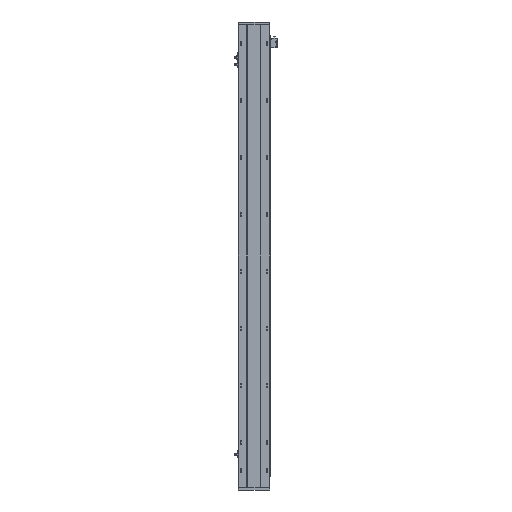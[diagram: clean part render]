
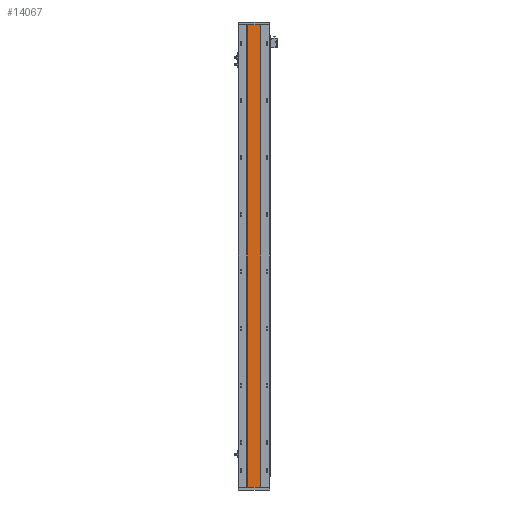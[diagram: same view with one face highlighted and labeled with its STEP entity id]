
A CAD part, front view. The second image highlights one B-rep face of the part: STEP entity #14067.
In plain terms, the highlighted planar face has unit normal (0, -1, 0).
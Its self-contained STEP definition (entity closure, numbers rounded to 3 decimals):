
#60 = VECTOR ( 'NONE', #23445, 1000. ) ;
#534 = DIRECTION ( 'NONE',  ( 0., 0., -1. ) ) ;
#878 = EDGE_CURVE ( 'NONE', #17143, #25121, #7319, .T. ) ;
#1242 = ORIENTED_EDGE ( 'NONE', *, *, #2972, .F. ) ;
#1353 = VERTEX_POINT ( 'NONE', #18440 ) ;
#1742 = CARTESIAN_POINT ( 'NONE',  ( 0., 115.96, 1756. ) ) ;
#1839 = VERTEX_POINT ( 'NONE', #21032 ) ;
#2829 = AXIS2_PLACEMENT_3D ( 'NONE', #29278, #6150, #24591 ) ;
#2972 = EDGE_CURVE ( 'NONE', #1839, #25121, #27657, .T. ) ;
#3830 = CARTESIAN_POINT ( 'NONE',  ( 133.07, 115.96, 0. ) ) ;
#5269 = DIRECTION ( 'NONE',  ( 1., 0., 0. ) ) ;
#5303 = EDGE_CURVE ( 'NONE', #1353, #17143, #29616, .T. ) ;
#5410 = CARTESIAN_POINT ( 'NONE',  ( 183.063, 115.96, 1756. ) ) ;
#5905 = EDGE_CURVE ( 'NONE', #1353, #1839, #13787, .T. ) ;
#6150 = DIRECTION ( 'NONE',  ( 0., 1., 0. ) ) ;
#6420 = ORIENTED_EDGE ( 'NONE', *, *, #878, .T. ) ;
#7319 = LINE ( 'NONE', #28217, #26674 ) ;
#13219 = ORIENTED_EDGE ( 'NONE', *, *, #5303, .T. ) ;
#13787 = LINE ( 'NONE', #1742, #26000 ) ;
#14067 = ADVANCED_FACE ( 'NONE', ( #21326 ), #19873, .F. ) ;
#17143 = VERTEX_POINT ( 'NONE', #3830 ) ;
#17735 = DIRECTION ( 'NONE',  ( 1., 0., 0. ) ) ;
#18440 = CARTESIAN_POINT ( 'NONE',  ( 133.07, 115.96, 1756. ) ) ;
#19873 = PLANE ( 'NONE',  #2829 ) ;
#21032 = CARTESIAN_POINT ( 'NONE',  ( 183.063, 115.96, 1756. ) ) ;
#21326 = FACE_OUTER_BOUND ( 'NONE', #28303, .T. ) ;
#23445 = DIRECTION ( 'NONE',  ( 0., 0., -1. ) ) ;
#24591 = DIRECTION ( 'NONE',  ( -1., 0., 0. ) ) ;
#24690 = ORIENTED_EDGE ( 'NONE', *, *, #5905, .F. ) ;
#25121 = VERTEX_POINT ( 'NONE', #27221 ) ;
#25767 = CARTESIAN_POINT ( 'NONE',  ( 133.07, 115.96, 1756. ) ) ;
#26000 = VECTOR ( 'NONE', #17735, 1000. ) ;
#26674 = VECTOR ( 'NONE', #5269, 1000. ) ;
#27221 = CARTESIAN_POINT ( 'NONE',  ( 183.063, 115.96, 0. ) ) ;
#27657 = LINE ( 'NONE', #5410, #60 ) ;
#28217 = CARTESIAN_POINT ( 'NONE',  ( 0., 115.96, 0. ) ) ;
#28303 = EDGE_LOOP ( 'NONE', ( #6420, #1242, #24690, #13219 ) ) ;
#28902 = VECTOR ( 'NONE', #534, 1000. ) ;
#29278 = CARTESIAN_POINT ( 'NONE',  ( 0., 115.96, 1756. ) ) ;
#29616 = LINE ( 'NONE', #25767, #28902 ) ;
